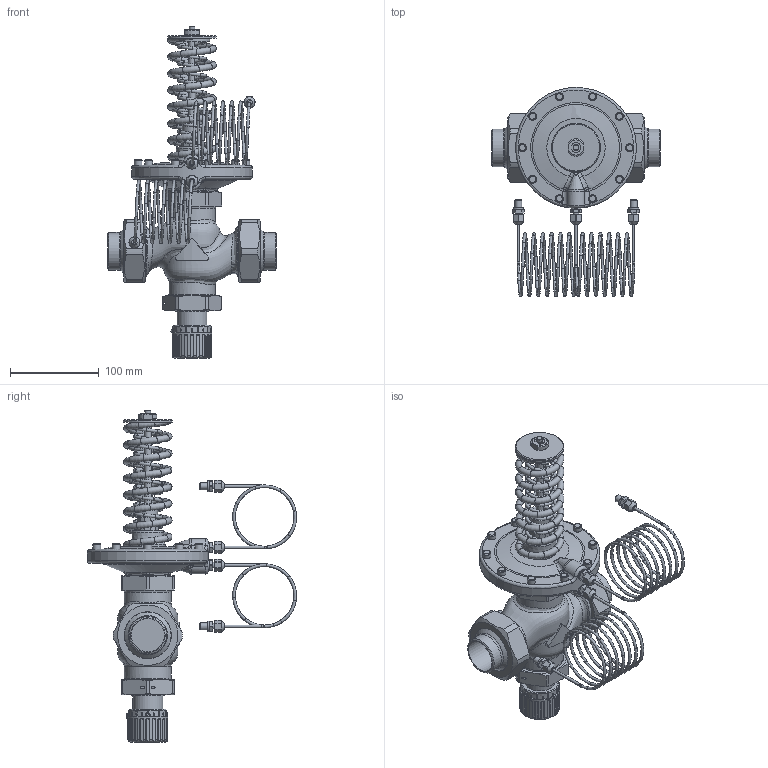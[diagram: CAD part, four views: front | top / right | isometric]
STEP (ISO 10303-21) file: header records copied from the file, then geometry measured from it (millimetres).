
FILE_DESCRIPTION(/* description */ (''),/* implementation_level */ '2;1');
FILE_NAME(/* name */ 'rd122p2_dn32_W.stp',/* time_stamp */ '2012-11-12T10:50:19+01:00',/* author */ ('JENIK'),/* organization */ ('LDM'),/* preprocessor_version */ 'ST-DEVELOPER v11',/* originating_system */ 'SIEMENS PLM Software NX 7.0',/* authorisation */ '');
FILE_SCHEMA (('CONFIG_CONTROL_DESIGN'));
Products named in the file (1): jeniB5D7d0vv
Bounding box: 190 x 235.73 x 374.4 mm (x, y, z)
Volume: 621755.1 mm3; surface area: 242370.2 mm2
Topology: 9 solids, 22 shells, 1286 faces, 3009 edges, 1811 vertices
Faces by surface type: torus 368, cylinder 366, plane 321, bspline 131, cone 92, sphere 8
Full cylindrical faces by diameter (mm): 2 x3, 2.5 x1, 3 x4, 4.891 x10, 6 x12, 6.5 x14, 6.6 x1, 7.794 x4, 8 x7, 9 x10, 12 x4, 22 x1, 24.5 x1, 30 x1, 33.8 x1, 35 x1, 37 x1, 37.2 x2, 38 x1, 40 x2, 42.4 x2, 43 x1, 44 x2, 52.6 x2, 53 x4, 55 x1, 56 x2, 56.2 x2, 56.656 x2, 59.614 x2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
Entity records: 47117 total; most frequent: CARTESIAN_POINT 21187, DIRECTION 5344, ORIENTED_EDGE 4822, EDGE_CURVE 2411, AXIS2_PLACEMENT_3D 2361, EDGE_LOOP 1849, VERTEX_POINT 1686, ADVANCED_FACE 1286
